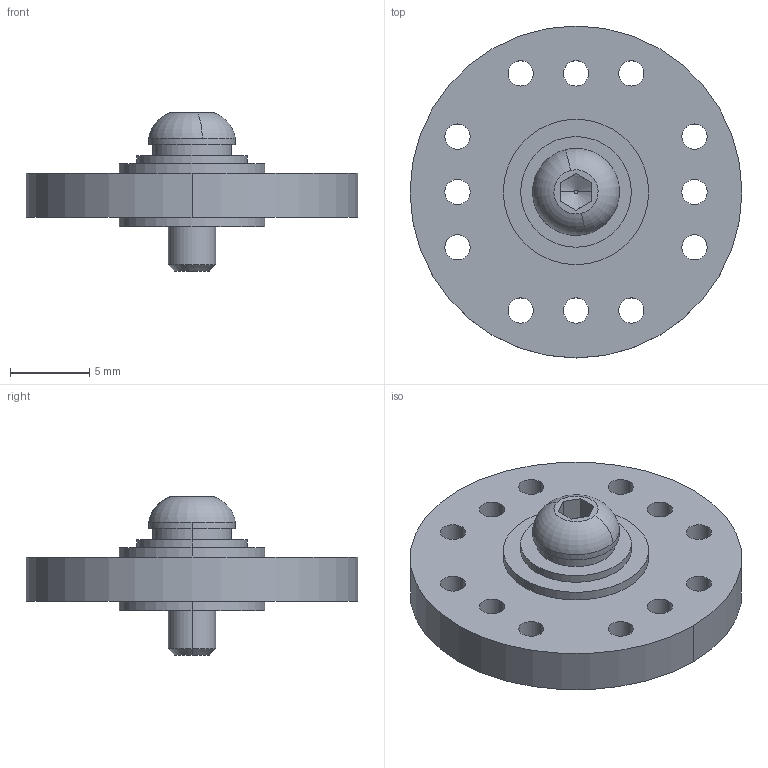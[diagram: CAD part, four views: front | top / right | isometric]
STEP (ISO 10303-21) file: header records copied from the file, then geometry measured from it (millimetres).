
FILE_DESCRIPTION (( 'STEP AP214' ), '1' );
FILE_NAME ('RS40x_FreeHorn.STEP', '2008-08-07T04:24:54', ( 'cada3' ), ( '双葉電子工業（株）' ), 'SwSTEP 2.0', 'SolidWorks 2008', '' );
FILE_SCHEMA (( 'AUTOMOTIVE_DESIGN' ));
Length unit declared in the file: millimetre
Products named in the file (1): RS40x_FreeHorn
Bounding box: 21 x 21 x 10 mm (x, y, z)
Volume: 1003.7 mm3; surface area: 1282 mm2
Topology: 1 solids, 2 shells, 80 faces, 196 edges, 130 vertices
Faces by surface type: cylinder 54, plane 20, cone 4, torus 2
Entity records: 3380 total; most frequent: DIRECTION 468, CARTESIAN_POINT 439, ORIENTED_EDGE 392, AXIS2_PLACEMENT_3D 199, EDGE_CURVE 196, VERTEX_POINT 130, CIRCLE 118, EDGE_LOOP 116
